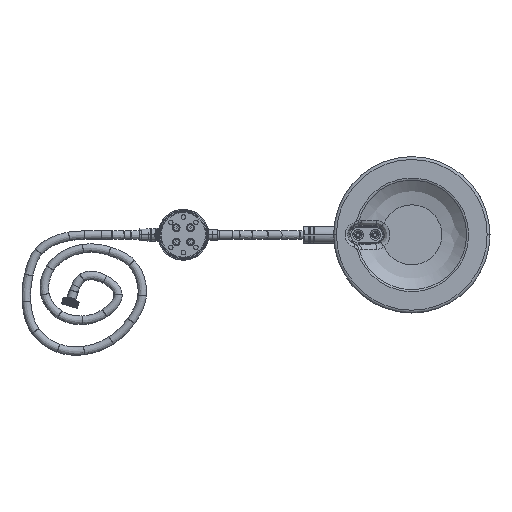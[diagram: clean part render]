
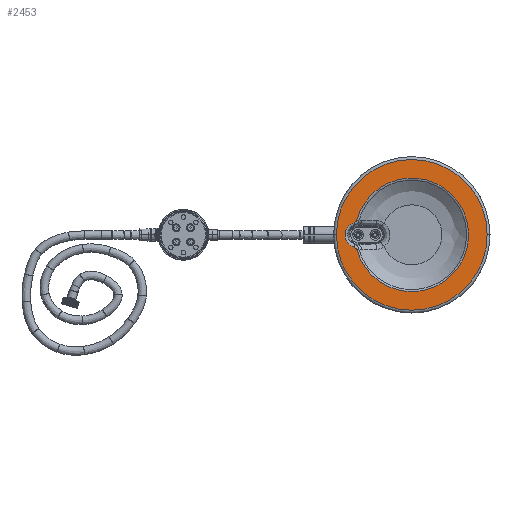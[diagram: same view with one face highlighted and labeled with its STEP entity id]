
A CAD part, front view. The second image highlights one B-rep face of the part: STEP entity #2453.
In plain terms, the highlighted planar face has unit normal (0, -1, 0).
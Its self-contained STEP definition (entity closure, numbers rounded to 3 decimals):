
#539=CARTESIAN_POINT('',(-95.993,0.,
26.039));
#554=CARTESIAN_POINT('',(0.,0.,0.));
#555=DIRECTION('',(0.,1.,0.));
#556=DIRECTION('',(-0.965,0.,0.262));
#557=AXIS2_PLACEMENT_3D('',#554,#555,#556);
#572=CARTESIAN_POINT('',(-95.991,0.,
-26.048));
#678=CARTESIAN_POINT('',(0.,0.,0.));
#679=DIRECTION('',(0.,-1.,0.));
#680=DIRECTION('',(1.,0.,0.));
#681=AXIS2_PLACEMENT_3D('',#678,#679,#680);
#683=CARTESIAN_POINT('',(0.,0.,0.));
#684=DIRECTION('',(0.,-1.,0.));
#685=DIRECTION('',(-1.,0.,0.));
#686=AXIS2_PLACEMENT_3D('',#683,#684,#685);
#688=CARTESIAN_POINT('',(-100.927,0.,
21.742));
#689=CARTESIAN_POINT('',(-100.474,0.,
21.886));
#690=CARTESIAN_POINT('',(-99.627,0.,22.224));
#691=CARTESIAN_POINT('',(-98.528,0.,
22.843));
#692=CARTESIAN_POINT('',(-97.593,0.,23.558));
#693=CARTESIAN_POINT('',(-96.85,0.,
24.34));
#694=CARTESIAN_POINT('',(-96.307,0.,
25.162));
#695=CARTESIAN_POINT('',(-96.074,0.,
25.742));
#696=CARTESIAN_POINT('',(-95.993,0.,
26.039));
#698=CARTESIAN_POINT('',(-100.927,0.,
-21.742));
#699=CARTESIAN_POINT('',(-102.479,0.,
-21.247));
#700=CARTESIAN_POINT('',(-105.394,0.,
-19.96));
#701=CARTESIAN_POINT('',(-109.283,0.,
-17.169));
#702=CARTESIAN_POINT('',(-112.517,0.,
-13.618));
#703=CARTESIAN_POINT('',(-114.939,0.,
-9.481));
#704=CARTESIAN_POINT('',(-116.451,0.,
-4.928));
#705=CARTESIAN_POINT('',(-116.985,0.,
-0.161));
#706=CARTESIAN_POINT('',(-116.519,0.,
4.609));
#707=CARTESIAN_POINT('',(-115.068,0.,9.192));
#708=CARTESIAN_POINT('',(-112.711,0.,
13.345));
#709=CARTESIAN_POINT('',(-109.532,0.,16.957));
#710=CARTESIAN_POINT('',(-105.498,0.,
19.916));
#711=CARTESIAN_POINT('',(-102.517,0.,21.235));
#712=CARTESIAN_POINT('',(-100.927,0.,
21.742));
#714=CARTESIAN_POINT('',(-95.991,0.,
-26.048));
#715=CARTESIAN_POINT('',(-96.085,0.,
-25.698));
#716=CARTESIAN_POINT('',(-96.371,0.,
-25.014));
#717=CARTESIAN_POINT('',(-97.119,0.,
-24.001));
#718=CARTESIAN_POINT('',(-98.179,0.,
-23.064));
#719=CARTESIAN_POINT('',(-99.503,0.,
-22.273));
#720=CARTESIAN_POINT('',(-100.437,0.,
-21.898));
#721=CARTESIAN_POINT('',(-100.927,0.,
-21.742));
#855=CARTESIAN_POINT('',(131.947,0.,
0.));
#856=CARTESIAN_POINT('',(-131.947,0.,
0.));
#857=VERTEX_POINT('',#855);
#858=VERTEX_POINT('',#856);
#916=VERTEX_POINT('',#539);
#919=VERTEX_POINT('',#688);
#920=VERTEX_POINT('',#698);
#924=VERTEX_POINT('',#572);
#2436=CARTESIAN_POINT('',(0.,0.,0.));
#2437=DIRECTION('',(0.,-1.,0.));
#2438=DIRECTION('',(-1.,0.,0.));
#2439=AXIS2_PLACEMENT_3D('',#2436,#2437,#2438);
#2440=PLANE('',#2439);
#2442=ORIENTED_EDGE('',*,*,#2441,.F.);
#2444=ORIENTED_EDGE('',*,*,#2443,.F.);
#2445=EDGE_LOOP('',(#2442,#2444));
#2446=FACE_OUTER_BOUND('',#2445,.F.);
#2447=ORIENTED_EDGE('',*,*,#2069,.F.);
#2448=ORIENTED_EDGE('',*,*,#2428,.F.);
#2449=ORIENTED_EDGE('',*,*,#2001,.F.);
#2450=ORIENTED_EDGE('',*,*,#2016,.F.);
#2451=EDGE_LOOP('',(#2447,#2448,#2449,#2450));
#2452=FACE_BOUND('',#2451,.F.);
#2453=ADVANCED_FACE('',(#2446,#2452),#2440,.T.);
#558=CIRCLE('',#557,99.462);
#682=CIRCLE('',#681,131.947);
#687=CIRCLE('',#686,131.947);
#697=B_SPLINE_CURVE_WITH_KNOTS('',3,(#688,#689,#690,#691,#692,#693,#694,#695,
#696),.UNSPECIFIED.,.F.,.F.,(4,1,1,1,1,1,4),(0.,0.167,
0.333,0.5,0.667,0.833,1.),
.UNSPECIFIED.);
#713=B_SPLINE_CURVE_WITH_KNOTS('',3,(#698,#699,#700,#701,#702,#703,#704,#705,
#706,#707,#708,#709,#710,#711,#712),.UNSPECIFIED.,.F.,.F.,(4,1,1,1,1,1,1,1,1,1,
1,1,4),(0.,0.083,0.167,0.25,0.333,
0.417,0.5,0.583,0.667,0.75,
0.833,0.917,1.),.UNSPECIFIED.);
#722=B_SPLINE_CURVE_WITH_KNOTS('',3,(#714,#715,#716,#717,#718,#719,#720,#721),
.UNSPECIFIED.,.F.,.F.,(4,1,1,1,1,4),(0.,0.2,0.4,0.6,0.8,1.),
.UNSPECIFIED.);
#2001=EDGE_CURVE('',#924,#920,#722,.T.);
#2016=EDGE_CURVE('',#916,#924,#558,.T.);
#2069=EDGE_CURVE('',#919,#916,#697,.T.);
#2428=EDGE_CURVE('',#920,#919,#713,.T.);
#2441=EDGE_CURVE('',#857,#858,#682,.T.);
#2443=EDGE_CURVE('',#858,#857,#687,.T.);
